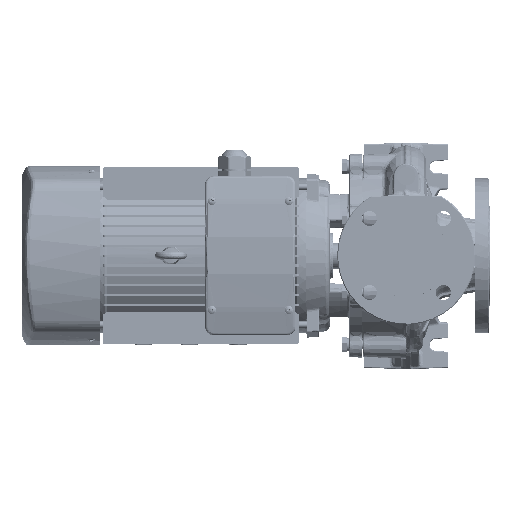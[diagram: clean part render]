
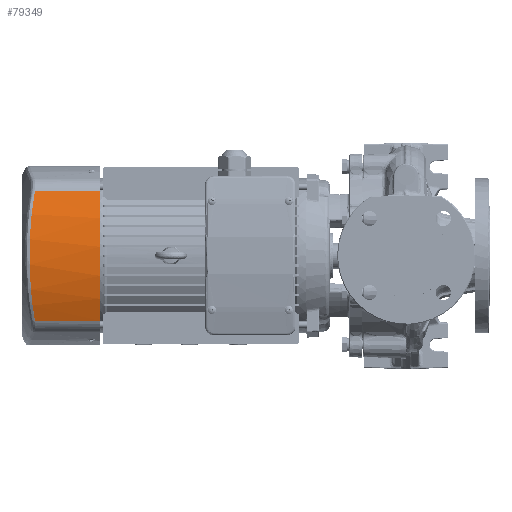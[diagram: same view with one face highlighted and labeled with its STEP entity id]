
A CAD part, top view. The second image highlights one B-rep face of the part: STEP entity #79349.
In plain terms, the highlighted cylindrical face has radius 199 mm (diameter 398 mm), a partial arc.
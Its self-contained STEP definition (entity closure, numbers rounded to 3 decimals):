
#2444 = CARTESIAN_POINT ( 'NONE',  ( -329.912, 8.42, 107.223 ) ) ;
#3569 = CARTESIAN_POINT ( 'NONE',  ( -323.432, -77.792, 91.559 ) ) ;
#4690 = CARTESIAN_POINT ( 'NONE',  ( -328.31, 40.12, 103.308 ) ) ;
#6146 = VERTEX_POINT ( 'NONE', #160528 ) ;
#15654 = CARTESIAN_POINT ( 'NONE',  ( -245.9, 71.656, 94.165 ) ) ;
#17842 = CARTESIAN_POINT ( 'NONE',  ( -245.9, 33.162, 104.725 ) ) ;
#22710 = CARTESIAN_POINT ( 'NONE',  ( -328.878, 33.366, 104.691 ) ) ;
#31457 = CARTESIAN_POINT ( 'NONE',  ( -245.9, 6.666, 107.394 ) ) ;
#32547 = CARTESIAN_POINT ( 'NONE',  ( -245.9, -13.315, 107.06 ) ) ;
#33302 = ORIENTED_EDGE ( 'NONE', *, *, #166005, .F. ) ;
#37395 = CARTESIAN_POINT ( 'NONE',  ( -329.964, 4.241, 107.351 ) ) ;
#39618 = CARTESIAN_POINT ( 'NONE',  ( -329.291, 26.748, 105.702 ) ) ;
#43720 = CARTESIAN_POINT ( 'NONE',  ( -271.744, 77.792, 91.559 ) ) ;
#44233 = FACE_OUTER_BOUND ( 'NONE', #94203, .T. ) ;
#48365 = CARTESIAN_POINT ( 'NONE',  ( -245.9, -65.406, 96.457 ) ) ;
#48553 = ORIENTED_EDGE ( 'NONE', *, *, #114773, .F. ) ;
#50555 = CARTESIAN_POINT ( 'NONE',  ( -245.9, 26.579, 105.724 ) ) ;
#52067 = CARTESIAN_POINT ( 'NONE',  ( -329.938, 6.749, 107.287 ) ) ;
#53173 = CARTESIAN_POINT ( 'NONE',  ( -329.847, -13.261, 107.063 ) ) ;
#54305 = CARTESIAN_POINT ( 'NONE',  ( -327.26, -52.719, 100.749 ) ) ;
#56704 = DIRECTION ( 'NONE',  ( -1., 0., 0. ) ) ;
#59989 = EDGE_CURVE ( 'NONE', #6146, #66238, #215441, .T. ) ;
#63982 = EDGE_CURVE ( 'NONE', #103873, #6146, #106319, .T. ) ;
#66238 = VERTEX_POINT ( 'NONE', #188329 ) ;
#67448 = CARTESIAN_POINT ( 'NONE',  ( -245.9, -6.666, 107.394 ) ) ;
#70061 = CARTESIAN_POINT ( 'NONE',  ( -327.82, 45.585, 102.115 ) ) ;
#71177 = CARTESIAN_POINT ( 'NONE',  ( -328.583, -36.766, 103.971 ) ) ;
#73430 = CARTESIAN_POINT ( 'NONE',  ( -329.979, 1.732, 107.387 ) ) ;
#73725 = B_SPLINE_CURVE_WITH_KNOTS ( 'NONE', 3,
 ( #154179, #15654, #137286, #173294, #185736, #17842, #50555, #153090, #31457, #67448, #32547, #204816, #221751, #138398, #121519, #48365, #87711, #101291 ),
 .UNSPECIFIED., .F., .F.,
 ( 4, 2, 2, 2, 2, 2, 2, 2, 4 ),
 ( 0., 0.125, 0.25, 0.375, 0.5, 0.625, 0.75, 0.875, 1. ),
 .UNSPECIFIED. ) ;
#74539 = CARTESIAN_POINT ( 'NONE',  ( -326.693, 56., 99.381 ) ) ;
#79349 = ADVANCED_FACE ( 'NONE', ( #44233 ), #178311, .T. ) ;
#85590 = CARTESIAN_POINT ( 'NONE',  ( -245.9, 77.792, 91.559 ) ) ;
#86798 = ORIENTED_EDGE ( 'NONE', *, *, #63982, .T. ) ;
#87711 = CARTESIAN_POINT ( 'NONE',  ( -245.9, -71.656, 94.165 ) ) ;
#88110 = CARTESIAN_POINT ( 'NONE',  ( -328.386, -39.214, 103.492 ) ) ;
#89216 = CARTESIAN_POINT ( 'NONE',  ( -328.293, 40.322, 103.266 ) ) ;
#92140 = B_SPLINE_CURVE_WITH_KNOTS ( 'NONE', 3,
 ( #134603, #171683, #170578, #137878 ),
 .UNSPECIFIED., .F., .F.,
 ( 4, 4 ),
 ( 0., 1. ),
 .UNSPECIFIED. ) ;
#93296 = AXIS2_PLACEMENT_3D ( 'NONE', #108521, #56704, #94951 ) ;
#93332 = CARTESIAN_POINT ( 'NONE',  ( -297.588, 77.792, 91.559 ) ) ;
#94203 = EDGE_LOOP ( 'NONE', ( #33302, #48553, #86798, #176653 ) ) ;
#94951 = DIRECTION ( 'NONE',  ( 0., 1., 0. ) ) ;
#101291 = CARTESIAN_POINT ( 'NONE',  ( -245.9, -77.792, 91.559 ) ) ;
#103873 = VERTEX_POINT ( 'NONE', #85590 ) ;
#104983 = CARTESIAN_POINT ( 'NONE',  ( -328.485, -37.992, 103.734 ) ) ;
#106114 = CARTESIAN_POINT ( 'NONE',  ( -325.469, 65.485, 96.427 ) ) ;
#106319 = B_SPLINE_CURVE_WITH_KNOTS ( 'NONE', 3,
 ( #145110, #43720, #93332, #162037 ),
 .UNSPECIFIED., .F., .F.,
 ( 4, 4 ),
 ( 0., 1. ),
 .UNSPECIFIED. ) ;
#107224 = CARTESIAN_POINT ( 'NONE',  ( -328.259, 40.727, 103.182 ) ) ;
#108342 = CARTESIAN_POINT ( 'NONE',  ( -329.981, 0.896, 107.392 ) ) ;
#108521 = CARTESIAN_POINT ( 'NONE',  ( -245.9, 0., -91.606 ) ) ;
#114773 = EDGE_CURVE ( 'NONE', #103873, #120260, #73725, .T. ) ;
#120260 = VERTEX_POINT ( 'NONE', #210388 ) ;
#120813 = CARTESIAN_POINT ( 'NONE',  ( -329.982, -6.601, 107.396 ) ) ;
#121519 = CARTESIAN_POINT ( 'NONE',  ( -245.9, -52.674, 100.412 ) ) ;
#121918 = CARTESIAN_POINT ( 'NONE',  ( -328.964, -31.439, 104.902 ) ) ;
#123041 = CARTESIAN_POINT ( 'NONE',  ( -329.27, -26.502, 105.649 ) ) ;
#124164 = CARTESIAN_POINT ( 'NONE',  ( -324.518, 71.705, 94.144 ) ) ;
#125275 = CARTESIAN_POINT ( 'NONE',  ( -327.067, 52.813, 100.287 ) ) ;
#134603 = CARTESIAN_POINT ( 'NONE',  ( -245.9, -77.792, 91.559 ) ) ;
#137286 = CARTESIAN_POINT ( 'NONE',  ( -245.9, 65.405, 96.457 ) ) ;
#137878 = CARTESIAN_POINT ( 'NONE',  ( -323.432, -77.792, 91.559 ) ) ;
#138398 = CARTESIAN_POINT ( 'NONE',  ( -245.9, -46.225, 102.066 ) ) ;
#138795 = CARTESIAN_POINT ( 'NONE',  ( -329.974, 2.987, 107.375 ) ) ;
#145110 = CARTESIAN_POINT ( 'NONE',  ( -245.9, 77.792, 91.559 ) ) ;
#153090 = CARTESIAN_POINT ( 'NONE',  ( -245.9, 13.315, 107.06 ) ) ;
#154179 = CARTESIAN_POINT ( 'NONE',  ( -245.9, 77.792, 91.559 ) ) ;
#157918 = CARTESIAN_POINT ( 'NONE',  ( -325.62, -65.527, 96.768 ) ) ;
#160164 = CARTESIAN_POINT ( 'NONE',  ( -329.981, 0.476, 107.394 ) ) ;
#160528 = CARTESIAN_POINT ( 'NONE',  ( -323.432, 77.792, 91.559 ) ) ;
#162037 = CARTESIAN_POINT ( 'NONE',  ( -323.432, 77.792, 91.559 ) ) ;
#166005 = EDGE_CURVE ( 'NONE', #120260, #66238, #92140, .T. ) ;
#170578 = CARTESIAN_POINT ( 'NONE',  ( -297.588, -77.792, 91.559 ) ) ;
#171683 = CARTESIAN_POINT ( 'NONE',  ( -271.744, -77.792, 91.559 ) ) ;
#172591 = CARTESIAN_POINT ( 'NONE',  ( -329.44, -23.198, 106.065 ) ) ;
#173294 = CARTESIAN_POINT ( 'NONE',  ( -245.9, 52.675, 100.412 ) ) ;
#173686 = CARTESIAN_POINT ( 'NONE',  ( -328.419, -38.808, 103.574 ) ) ;
#174801 = CARTESIAN_POINT ( 'NONE',  ( -328.206, 41.336, 103.054 ) ) ;
#175903 = CARTESIAN_POINT ( 'NONE',  ( -329.808, 13.431, 106.968 ) ) ;
#176653 = ORIENTED_EDGE ( 'NONE', *, *, #59989, .T. ) ;
#177021 = CARTESIAN_POINT ( 'NONE',  ( -329.705, 16.767, 106.715 ) ) ;
#178311 = CYLINDRICAL_SURFACE ( 'NONE', #93296, 199. ) ;
#185736 = CARTESIAN_POINT ( 'NONE',  ( -245.9, 46.225, 102.066 ) ) ;
#188329 = CARTESIAN_POINT ( 'NONE',  ( -323.432, -77.792, 91.559 ) ) ;
#190519 = CARTESIAN_POINT ( 'NONE',  ( -328.798, -33.902, 104.497 ) ) ;
#193863 = CARTESIAN_POINT ( 'NONE',  ( -328.081, 42.754, 102.75 ) ) ;
#204816 = CARTESIAN_POINT ( 'NONE',  ( -245.9, -26.579, 105.724 ) ) ;
#206300 = CARTESIAN_POINT ( 'NONE',  ( -327.578, 47.999, 101.526 ) ) ;
#210388 = CARTESIAN_POINT ( 'NONE',  ( -245.9, -77.792, 91.559 ) ) ;
#210790 = CARTESIAN_POINT ( 'NONE',  ( -323.432, 77.792, 91.559 ) ) ;
#215441 = B_SPLINE_CURVE_WITH_KNOTS ( 'NONE', 3,
 ( #210790, #124164, #106114, #74539, #125275, #206300, #70061, #193863, #174801, #107224, #89216, #4690, #22710, #39618, #177021, #175903, #2444, #52067, #37395, #138795, #73430, #108342, #160164, #120813, #53173, #172591, #123041, #121918, #190519, #71177, #104983, #173686, #88110, #54305, #157918, #3569 ),
 .UNSPECIFIED., .F., .F.,
 ( 4, 2, 2, 1, 1, 1, 2, 2, 2, 2, 2, 1, 2, 2, 2, 2, 1, 1, 2, 2, 4 ),
 ( 0., 0.125, 0.188, 0.219, 0.234, 0.242, 0.246, 0.25, 0.375, 0.438, 0.469, 0.484, 0.492, 0.5, 0.625, 0.688, 0.719, 0.734, 0.742, 0.75, 1. ),
 .UNSPECIFIED. ) ;
#221751 = CARTESIAN_POINT ( 'NONE',  ( -245.9, -33.162, 104.725 ) ) ;
